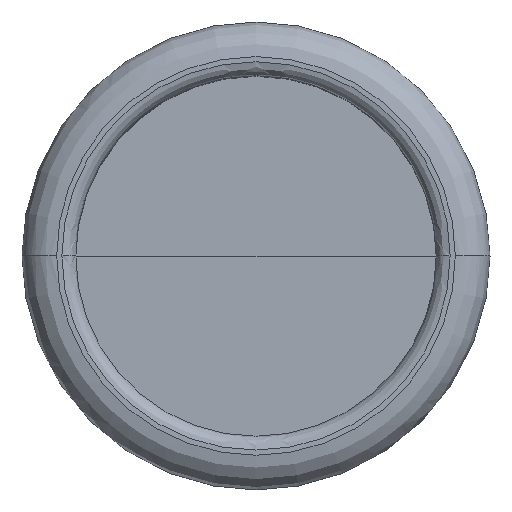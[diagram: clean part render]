
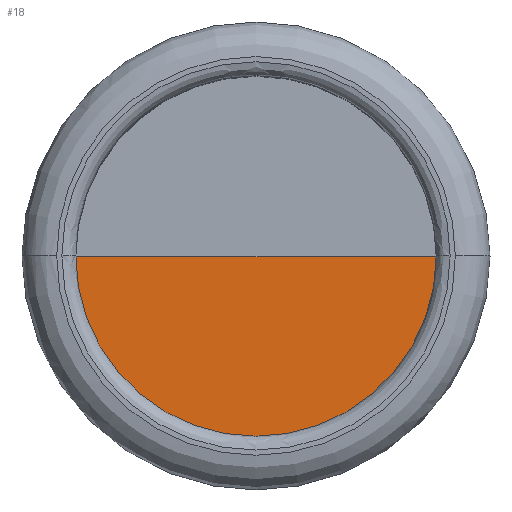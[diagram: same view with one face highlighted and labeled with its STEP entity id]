
A CAD part, top view. The second image highlights one B-rep face of the part: STEP entity #18.
In plain terms, the highlighted planar face has unit normal (0, 0, 1).
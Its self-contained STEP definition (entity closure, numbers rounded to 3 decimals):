
#18=ADVANCED_FACE('',(#32),#198,.T.);
#32=FACE_OUTER_BOUND('',#47,.T.);
#47=EDGE_LOOP('',(#70,#71,#72));
#70=ORIENTED_EDGE('',*,*,#128,.T.);
#71=ORIENTED_EDGE('',*,*,#114,.F.);
#72=ORIENTED_EDGE('',*,*,#115,.T.);
#114=EDGE_CURVE('',#183,#182,#136,.T.);
#115=EDGE_CURVE('',#183,#191,#146,.T.);
#128=EDGE_CURVE('',#191,#182,#138,.T.);
#136=B_SPLINE_CURVE_WITH_KNOTS('',1,(#771,#772),.UNSPECIFIED.,.F.,.F.,(2,
2),(393.643,546.643),.UNSPECIFIED.);
#138=B_SPLINE_CURVE_WITH_KNOTS('',1,(#830,#831),.UNSPECIFIED.,.F.,.F.,(2,
2),(393.643,546.643),.UNSPECIFIED.);
#146=TRIMMED_CURVE($,#164,(#774),(#775),.T.,.CARTESIAN.);
#164=CIRCLE('',#305,192.959);
#182=VERTEX_POINT('',#727);
#183=VERTEX_POINT('',#728);
#191=VERTEX_POINT('',#736);
#198=PLANE('',#298);
#298=AXIS2_PLACEMENT_3D('',#515,#325,$);
#305=AXIS2_PLACEMENT_3D($,#773,#334,#335);
#325=DIRECTION('',(0.,0.,1.));
#334=DIRECTION('',(0.,0.,1.));
#335=DIRECTION('',(-1.,0.,0.));
#515=CARTESIAN_POINT('',(390.021,1691.,59.819));
#727=CARTESIAN_POINT('',(582.98,1691.,59.819));
#728=CARTESIAN_POINT('',(390.021,1691.,59.819));
#736=CARTESIAN_POINT('',(775.939,1691.,59.819));
#771=CARTESIAN_POINT('',(390.021,1691.,59.819));
#772=CARTESIAN_POINT('',(582.98,1691.,59.819));
#773=CARTESIAN_POINT('',(582.98,1691.,59.819));
#774=CARTESIAN_POINT('',(390.021,1691.,59.819));
#775=CARTESIAN_POINT('',(775.939,1691.,59.819));
#830=CARTESIAN_POINT('',(775.939,1691.,59.819));
#831=CARTESIAN_POINT('',(582.98,1691.,59.819));
